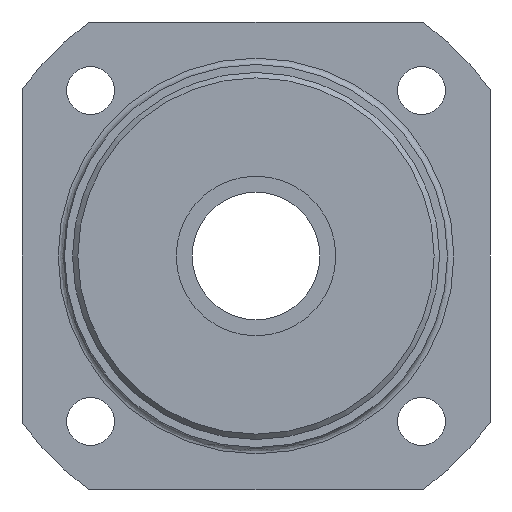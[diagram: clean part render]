
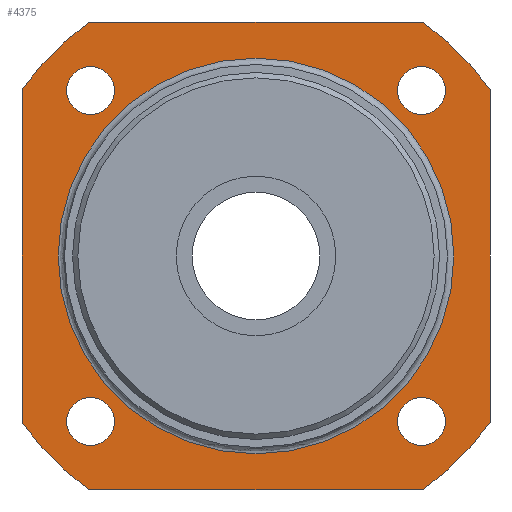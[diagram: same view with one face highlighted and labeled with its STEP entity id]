
A CAD part, left-side view. The second image highlights one B-rep face of the part: STEP entity #4375.
In plain terms, the highlighted planar face has unit normal (-1, 0, 0).
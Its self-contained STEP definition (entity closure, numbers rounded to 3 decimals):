
#3274=CARTESIAN_POINT('',(-10.0,-17.806,-15.556));
#3275=VERTEX_POINT('',#3274);
#3276=CARTESIAN_POINT('',(-10.0,-15.556,-15.556));
#3277=DIRECTION('',(1.0,0.0,0.0));
#3278=DIRECTION('',(0.0,1.0,0.0));
#3279=AXIS2_PLACEMENT_3D('',#3276,#3277,#3278);
#3280=CIRCLE('',#3279,2.25);
#3281=EDGE_CURVE('',#3275,#3275,#3280,.T.);
#3376=CARTESIAN_POINT('',(-10.0,13.306,15.556));
#3377=VERTEX_POINT('',#3376);
#3378=CARTESIAN_POINT('',(-10.0,15.556,15.556));
#3379=DIRECTION('',(1.0,0.0,0.0));
#3380=DIRECTION('',(0.0,1.0,0.0));
#3381=AXIS2_PLACEMENT_3D('',#3378,#3379,#3380);
#3382=CIRCLE('',#3381,2.25);
#3383=EDGE_CURVE('',#3377,#3377,#3382,.T.);
#3478=CARTESIAN_POINT('',(-10.0,-17.806,15.556));
#3479=VERTEX_POINT('',#3478);
#3480=CARTESIAN_POINT('',(-10.0,-15.556,15.556));
#3481=DIRECTION('',(1.0,0.0,0.0));
#3482=DIRECTION('',(0.0,1.0,0.0));
#3483=AXIS2_PLACEMENT_3D('',#3480,#3481,#3482);
#3484=CIRCLE('',#3483,2.25);
#3485=EDGE_CURVE('',#3479,#3479,#3484,.T.);
#3580=CARTESIAN_POINT('',(-10.0,13.306,-15.556));
#3581=VERTEX_POINT('',#3580);
#3582=CARTESIAN_POINT('',(-10.0,15.556,-15.556));
#3583=DIRECTION('',(1.0,0.0,0.0));
#3584=DIRECTION('',(0.0,1.0,0.0));
#3585=AXIS2_PLACEMENT_3D('',#3582,#3583,#3584);
#3586=CIRCLE('',#3585,2.25);
#3587=EDGE_CURVE('',#3581,#3581,#3586,.T.);
#4058=CARTESIAN_POINT('',(-10.0,-15.652,22.0));
#4059=VERTEX_POINT('',#4058);
#4060=CARTESIAN_POINT('',(-10.0,15.652,22.0));
#4061=VERTEX_POINT('',#4060);
#4062=CARTESIAN_POINT('',(-10.0,-15.652,22.0));
#4063=DIRECTION('',(0.0,1.0,0.0));
#4064=VECTOR('',#4063,31.305);
#4065=LINE('',#4062,#4064);
#4066=EDGE_CURVE('',#4059,#4061,#4065,.T.);
#4089=CARTESIAN_POINT('',(-10.0,15.652,-22.0));
#4090=VERTEX_POINT('',#4089);
#4091=CARTESIAN_POINT('',(-10.0,-15.652,-22.0));
#4092=VERTEX_POINT('',#4091);
#4093=CARTESIAN_POINT('',(-10.0,15.652,-22.0));
#4094=DIRECTION('',(0.0,-1.0,0.0));
#4095=VECTOR('',#4094,31.305);
#4096=LINE('',#4093,#4095);
#4097=EDGE_CURVE('',#4090,#4092,#4096,.T.);
#4120=CARTESIAN_POINT('',(-10.0,22.,15.652));
#4121=VERTEX_POINT('',#4120);
#4122=CARTESIAN_POINT('',(-10.0,22.,-15.652));
#4123=VERTEX_POINT('',#4122);
#4124=CARTESIAN_POINT('',(-10.0,22.,15.652));
#4125=DIRECTION('',(0.0,0.0,-1.0));
#4126=VECTOR('',#4125,31.305);
#4127=LINE('',#4124,#4126);
#4128=EDGE_CURVE('',#4121,#4123,#4127,.T.);
#4151=CARTESIAN_POINT('',(-10.0,-22.,-15.652));
#4152=VERTEX_POINT('',#4151);
#4153=CARTESIAN_POINT('',(-10.0,-22.,15.652));
#4154=VERTEX_POINT('',#4153);
#4155=CARTESIAN_POINT('',(-10.0,-22.,-15.652));
#4156=DIRECTION('',(0.0,0.0,1.0));
#4157=VECTOR('',#4156,31.305);
#4158=LINE('',#4155,#4157);
#4159=EDGE_CURVE('',#4152,#4154,#4158,.T.);
#4183=CARTESIAN_POINT('',(-10.0,0.0,0.0));
#4184=DIRECTION('',(1.0,0.0,0.0));
#4185=DIRECTION('',(0.0,1.0,0.0));
#4186=AXIS2_PLACEMENT_3D('',#4183,#4184,#4185);
#4187=CIRCLE('',#4186,27.0);
#4188=EDGE_CURVE('',#4059,#4154,#4187,.T.);
#4203=CARTESIAN_POINT('',(-10.0,0.0,0.0));
#4204=DIRECTION('',(1.0,0.0,0.0));
#4205=DIRECTION('',(0.0,1.0,0.0));
#4206=AXIS2_PLACEMENT_3D('',#4203,#4204,#4205);
#4207=CIRCLE('',#4206,27.0);
#4208=EDGE_CURVE('',#4152,#4092,#4207,.T.);
#4219=CARTESIAN_POINT('',(-10.0,0.0,0.0));
#4220=DIRECTION('',(1.0,0.0,0.0));
#4221=DIRECTION('',(0.0,1.0,0.0));
#4222=AXIS2_PLACEMENT_3D('',#4219,#4220,#4221);
#4223=CIRCLE('',#4222,27.0);
#4224=EDGE_CURVE('',#4090,#4123,#4223,.T.);
#4324=CARTESIAN_POINT('',(-10.0,18.6,0.0));
#4325=VERTEX_POINT('',#4324);
#4326=CARTESIAN_POINT('',(-10.0,0.0,0.0));
#4327=DIRECTION('',(1.0,0.0,0.0));
#4328=DIRECTION('',(0.0,1.0,0.0));
#4329=AXIS2_PLACEMENT_3D('',#4326,#4327,#4328);
#4330=CIRCLE('',#4329,18.6);
#4331=EDGE_CURVE('',#4325,#4325,#4330,.T.);
#4339=CARTESIAN_POINT('',(-10.0,22.8,0.0));
#4340=DIRECTION('',(-1.0,0.0,0.0));
#4341=DIRECTION('',(0.0,0.0,1.0));
#4342=AXIS2_PLACEMENT_3D('',#4339,#4340,#4341);
#4343=PLANE('',#4342);
#4344=ORIENTED_EDGE('',*,*,#4066,.T.);
#4345=CARTESIAN_POINT('',(-10.0,0.0,0.0));
#4346=DIRECTION('',(1.0,0.0,0.0));
#4347=DIRECTION('',(0.0,1.0,0.0));
#4348=AXIS2_PLACEMENT_3D('',#4345,#4346,#4347);
#4349=CIRCLE('',#4348,27.0);
#4350=EDGE_CURVE('',#4121,#4061,#4349,.T.);
#4351=ORIENTED_EDGE('',*,*,#4350,.F.);
#4352=ORIENTED_EDGE('',*,*,#4128,.T.);
#4353=ORIENTED_EDGE('',*,*,#4224,.F.);
#4354=ORIENTED_EDGE('',*,*,#4097,.T.);
#4355=ORIENTED_EDGE('',*,*,#4208,.F.);
#4356=ORIENTED_EDGE('',*,*,#4159,.T.);
#4357=ORIENTED_EDGE('',*,*,#4188,.F.);
#4358=EDGE_LOOP('',(#4344,#4351,#4352,#4353,#4354,#4355,#4356,#4357));
#4359=FACE_OUTER_BOUND('',#4358,.T.);
#4360=ORIENTED_EDGE('',*,*,#3281,.T.);
#4361=EDGE_LOOP('',(#4360));
#4362=FACE_BOUND('',#4361,.T.);
#4363=ORIENTED_EDGE('',*,*,#3383,.T.);
#4364=EDGE_LOOP('',(#4363));
#4365=FACE_BOUND('',#4364,.T.);
#4366=ORIENTED_EDGE('',*,*,#3485,.T.);
#4367=EDGE_LOOP('',(#4366));
#4368=FACE_BOUND('',#4367,.T.);
#4369=ORIENTED_EDGE('',*,*,#3587,.T.);
#4370=EDGE_LOOP('',(#4369));
#4371=FACE_BOUND('',#4370,.T.);
#4372=ORIENTED_EDGE('',*,*,#4331,.T.);
#4373=EDGE_LOOP('',(#4372));
#4374=FACE_BOUND('',#4373,.T.);
#4375=ADVANCED_FACE('',(#4359,#4362,#4365,#4368,#4371,#4374),#4343,.T.);
